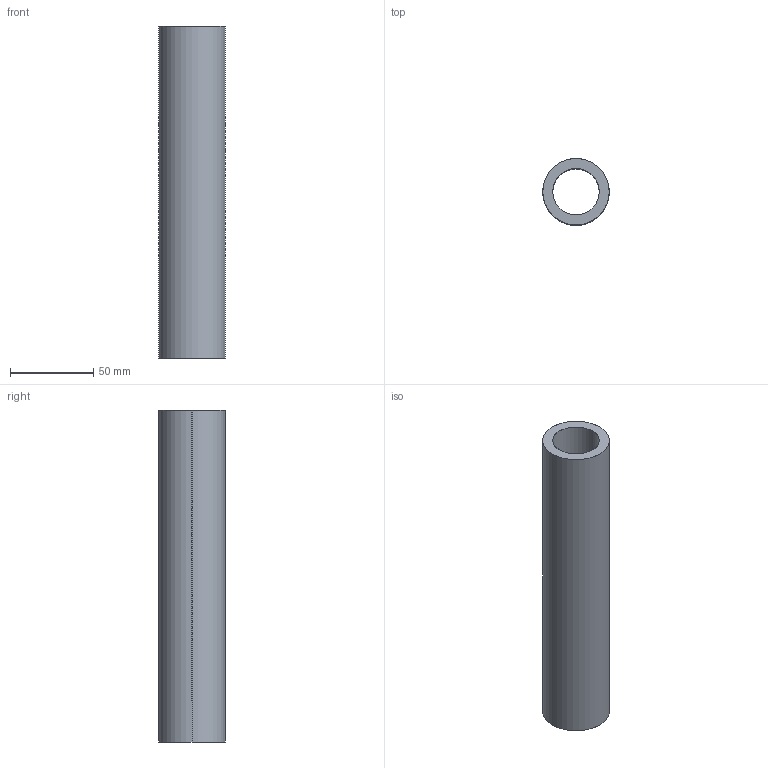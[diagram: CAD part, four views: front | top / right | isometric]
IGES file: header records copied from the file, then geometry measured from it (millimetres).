
Start section: SolidWorks IGES file using analytic representation for surfaces
Global section: file name: C:\Users\IanO\Desktop\L1771_v2\L1771.40_v2\L1771.40_v2_20230705_IGES\L1771.40-0200.igs; native system: SolidWorks 2019; preprocessor: SolidWorks 2019; author: IanO; date: 230705.155815; units: millimetre
Bounding box: 40 x 40 x 200 mm (x, y, z)
Surface area: 44007.4 mm2 (no closed solid volume)
Topology: 0 solids, 0 shells, 6 faces, 272 edges, 272 vertices
Faces by surface type: revolution 4, bspline 2
